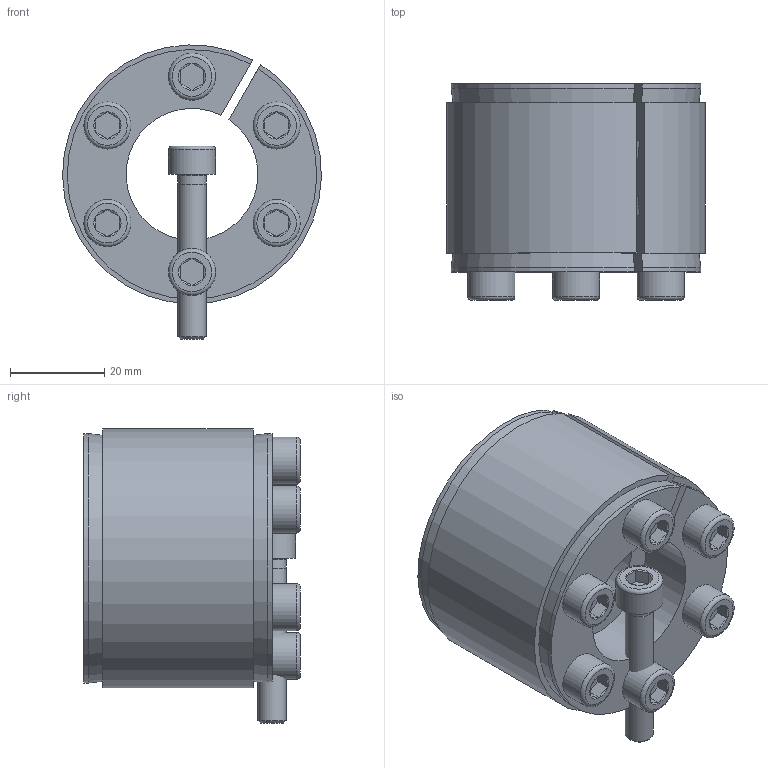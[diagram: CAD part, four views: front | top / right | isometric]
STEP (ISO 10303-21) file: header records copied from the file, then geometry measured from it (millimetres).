
FILE_DESCRIPTION( ( 'Unknown' ), '1' );
FILE_NAME( 'C:/Dokumente und Einstellungen/Sven/Desktop/homepage/cad - homepage/KBS11/KBS 11 - 28 x 55.stp', 'Unknown', ( 'Unknown' ), ( 'Unknown' ), 'XStep 1.0', 'Unknown', ' ' );
FILE_SCHEMA( ( 'automotive_design' ) );
Length unit declared in the file: millimetre
Products named in the file (3): Assem1; KBS 11 - 28 x 55; ISO EN DIN 4762 M6x35
Bounding box: 54.99 x 46 x 62.49 mm (x, y, z)
Volume: 113314.6 mm3; surface area: 53664.4 mm2
Topology: 9 solids, 9 shells, 251 faces, 541 edges, 336 vertices
Faces by surface type: plane 104, cylinder 76, cone 57, torus 14
Full cylindrical faces by diameter (mm): 5 x7, 6 x50, 10 x7
Entity records: 2210 total; most frequent: CARTESIAN_POINT 361, DIRECTION 324, ORIENTED_EDGE 250, AXIS2_PLACEMENT_3D 142, EDGE_LOOP 128, EDGE_CURVE 125, VERTEX_POINT 95, FACE_OUTER_BOUND 87
